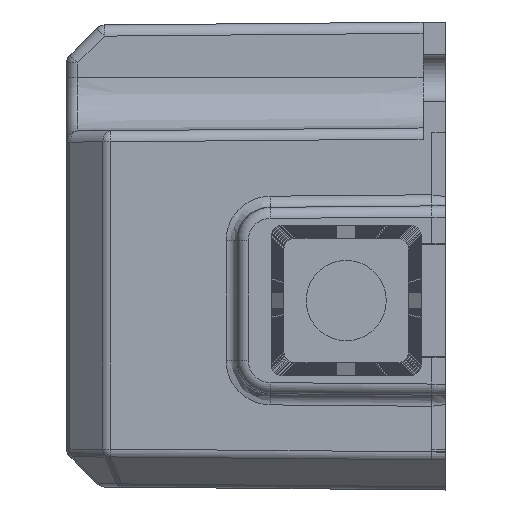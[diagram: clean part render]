
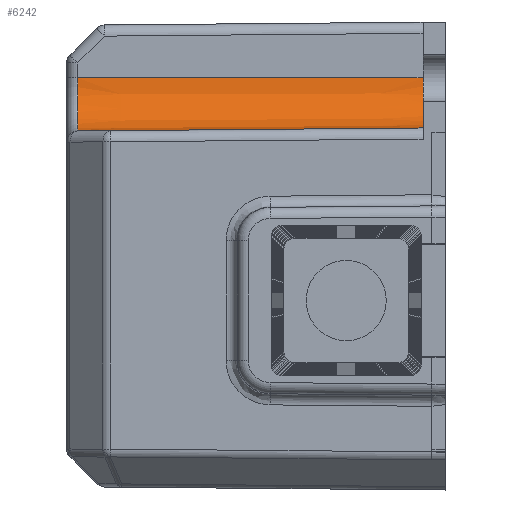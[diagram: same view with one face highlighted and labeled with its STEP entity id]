
A CAD part, left-side view. The second image highlights one B-rep face of the part: STEP entity #6242.
In plain terms, the highlighted conical face has half-angle 0.5 degrees and reference radius 4.635 mm.
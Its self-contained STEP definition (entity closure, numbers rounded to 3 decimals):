
#188=CARTESIAN_POINT('',(-60.4,0.,16.));
#189=DIRECTION('',(0.,-1.,0.));
#190=DIRECTION('',(0.,0.,-1.));
#191=AXIS2_PLACEMENT_3D('',#188,#189,#190);
#355=CARTESIAN_POINT('',(-60.4,31.009,16.));
#356=DIRECTION('',(0.,1.,0.));
#357=DIRECTION('',(1.,0.,0.));
#358=AXIS2_PLACEMENT_3D('',#355,#356,#357);
#371=DIRECTION('',(-0.009,-1.,0.));
#372=VECTOR('',#371,31.01);
#373=CARTESIAN_POINT('',(-55.629,31.009,16.));
#374=LINE('',#373,#372);
#378=DIRECTION('',(0.,1.,-0.009));
#379=VECTOR('',#378,31.01);
#380=CARTESIAN_POINT('',(-60.4,0.,11.5));
#381=LINE('',#380,#379);
#5228=CARTESIAN_POINT('',(-55.9,0.,16.));
#5230=VERTEX_POINT('',#5228);
#5242=CARTESIAN_POINT('',(-60.4,0.,11.5));
#5243=VERTEX_POINT('',#5242);
#5266=CARTESIAN_POINT('',(-55.629,31.009,16.));
#5267=VERTEX_POINT('',#5266);
#5298=CARTESIAN_POINT('',(-60.4,31.009,11.229));
#5299=VERTEX_POINT('',#5298);
#6230=CARTESIAN_POINT('',(-60.4,15.504,16.));
#6231=DIRECTION('',(0.,1.,0.));
#6232=DIRECTION('',(-1.,0.,0.));
#6233=AXIS2_PLACEMENT_3D('',#6230,#6231,#6232);
#6234=CONICAL_SURFACE('',#6233,4.635,0.5);
#6235=ORIENTED_EDGE('',*,*,#6223,.F.);
#6236=ORIENTED_EDGE('',*,*,#6072,.T.);
#6237=ORIENTED_EDGE('',*,*,#6059,.F.);
#6239=ORIENTED_EDGE('',*,*,#6238,.T.);
#6240=EDGE_LOOP('',(#6235,#6236,#6237,#6239));
#6241=FACE_OUTER_BOUND('',#6240,.F.);
#6242=ADVANCED_FACE('',(#6241),#6234,.F.);
#192=CIRCLE('',#191,4.5);
#359=CIRCLE('',#358,4.771);
#6059=EDGE_CURVE('',#5243,#5230,#192,.T.);
#6072=EDGE_CURVE('',#5267,#5230,#374,.T.);
#6223=EDGE_CURVE('',#5267,#5299,#359,.T.);
#6238=EDGE_CURVE('',#5243,#5299,#381,.T.);
